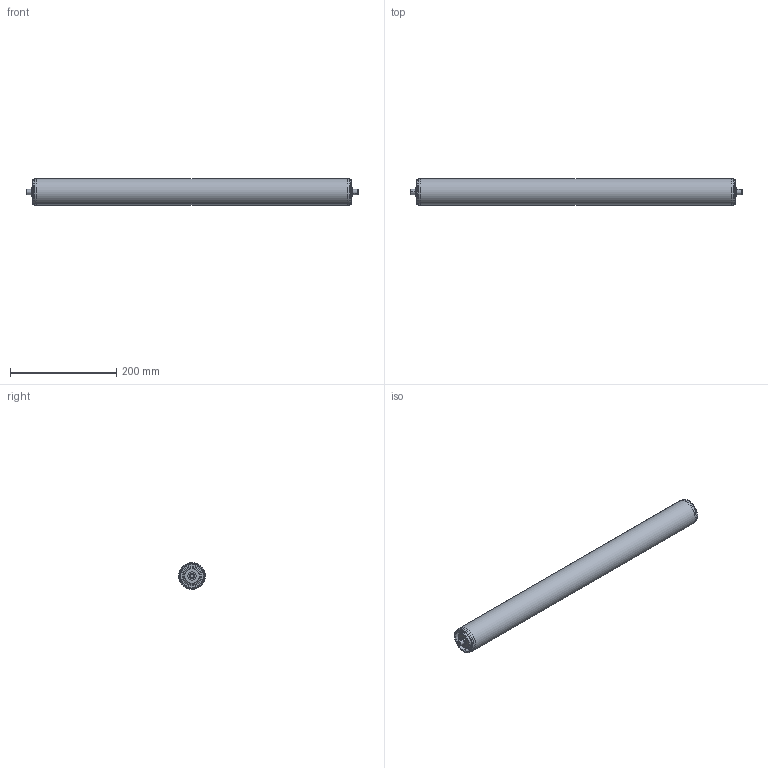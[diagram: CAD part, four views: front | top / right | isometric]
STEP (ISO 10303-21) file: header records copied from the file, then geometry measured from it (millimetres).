
FILE_DESCRIPTION (( 'STEP AP203' ), '1' );
FILE_NAME ('87006.STEP', '2013-02-13T08:40:39', ( 'John' ), ( 'Hewlett-Packard Company' ), 'SwSTEP 2.0', 'SolidWorks 2007', '' );
FILE_SCHEMA (( 'CONFIG_CONTROL_DESIGN' ));
Length unit declared in the file: millimetre
Products named in the file (3): Lagergavel 50 mm; 87006; Rulle 50 x 1500
Assembly tree (3 placements, depth 2):
  87006
    Lagergavel 50 mm  x2
    Rulle 50 x 1500
Bounding box: 625 x 50 x 50 mm (x, y, z)
Volume: 206322.3 mm3; surface area: 196317.5 mm2
Topology: 3 solids, 3 shells, 94 faces, 184 edges, 108 vertices
Faces by surface type: torus 44, cylinder 24, plane 18, cone 8
Entity records: 1749 total; most frequent: DIRECTION 312, CARTESIAN_POINT 228, ORIENTED_EDGE 212, AXIS2_PLACEMENT_3D 146, EDGE_CURVE 106, CIRCLE 86, EDGE_LOOP 62, VERTEX_POINT 62
